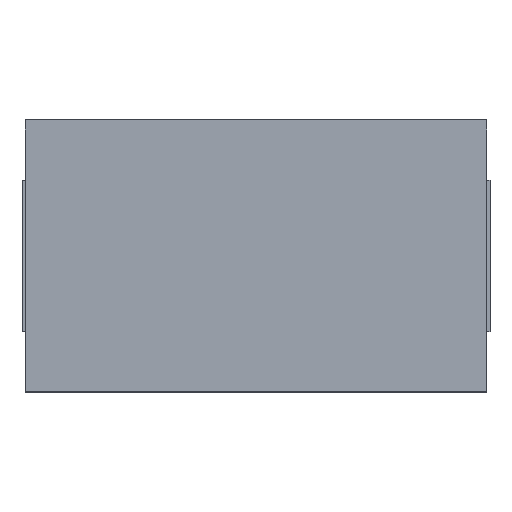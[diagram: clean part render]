
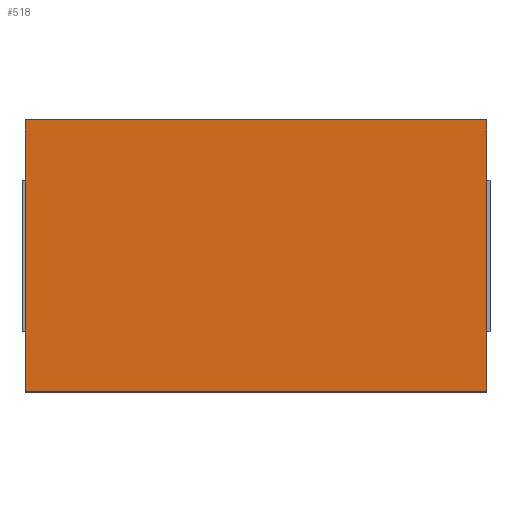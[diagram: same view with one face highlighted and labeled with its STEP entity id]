
A CAD part, top view. The second image highlights one B-rep face of the part: STEP entity #518.
In plain terms, the highlighted planar face has unit normal (0, 0, 1).
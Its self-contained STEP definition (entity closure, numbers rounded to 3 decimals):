
#361=CARTESIAN_POINT('',(8.75,4.721,1.1));
#362=VERTEX_POINT('',#361);
#369=CARTESIAN_POINT('',(8.75,0.421,1.1));
#370=VERTEX_POINT('',#369);
#371=CARTESIAN_POINT('',(8.75,4.721,1.1));
#372=DIRECTION('',(0.0,-1.0,0.0));
#373=VECTOR('',#372,4.3);
#374=LINE('',#371,#373);
#375=EDGE_CURVE('',#362,#370,#374,.T.);
#408=CARTESIAN_POINT('',(1.45,0.421,1.1));
#409=VERTEX_POINT('',#408);
#416=CARTESIAN_POINT('',(1.45,4.721,1.1));
#417=VERTEX_POINT('',#416);
#418=CARTESIAN_POINT('',(1.45,0.421,1.1));
#419=DIRECTION('',(0.0,1.0,0.0));
#420=VECTOR('',#419,4.3);
#421=LINE('',#418,#420);
#422=EDGE_CURVE('',#409,#417,#421,.T.);
#448=CARTESIAN_POINT('',(1.45,4.721,1.1));
#449=DIRECTION('',(1.0,0.0,0.0));
#450=VECTOR('',#449,7.3);
#451=LINE('',#448,#450);
#452=EDGE_CURVE('',#417,#362,#451,.T.);
#470=CARTESIAN_POINT('',(8.75,0.421,1.1));
#471=DIRECTION('',(-1.0,0.0,0.0));
#472=VECTOR('',#471,7.3);
#473=LINE('',#470,#472);
#474=EDGE_CURVE('',#370,#409,#473,.T.);
#507=CARTESIAN_POINT('',(5.1,2.571,1.1));
#508=DIRECTION('',(0.0,0.0,1.0));
#509=DIRECTION('',(1.0,0.0,0.0));
#510=AXIS2_PLACEMENT_3D('',#507,#508,#509);
#511=PLANE('',#510);
#512=ORIENTED_EDGE('',*,*,#422,.F.);
#513=ORIENTED_EDGE('',*,*,#474,.F.);
#514=ORIENTED_EDGE('',*,*,#375,.F.);
#515=ORIENTED_EDGE('',*,*,#452,.F.);
#516=EDGE_LOOP('',(#512,#513,#514,#515));
#517=FACE_OUTER_BOUND('',#516,.T.);
#518=ADVANCED_FACE('',(#517),#511,.T.);
